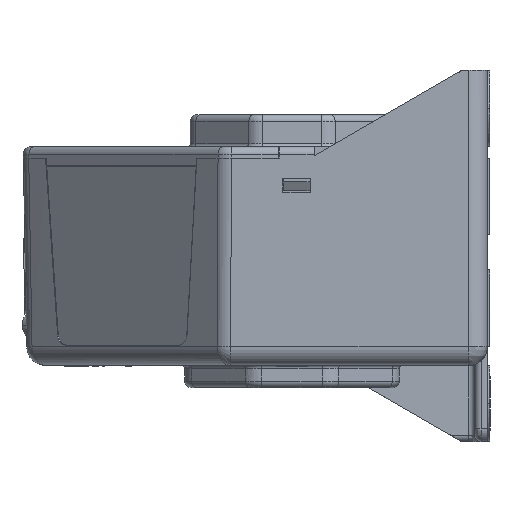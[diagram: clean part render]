
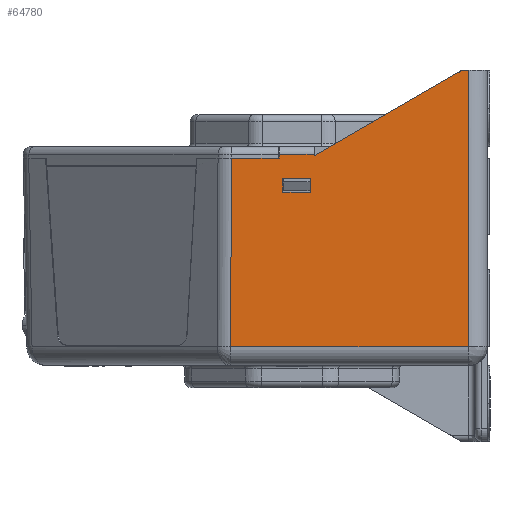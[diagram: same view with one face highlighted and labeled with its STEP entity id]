
A CAD part, left-side view. The second image highlights one B-rep face of the part: STEP entity #64780.
In plain terms, the highlighted planar face has unit normal (-1, 0, -0.018).
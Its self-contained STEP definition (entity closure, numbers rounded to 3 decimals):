
#23400=CARTESIAN_POINT('',(-43.01,-3.5,
0.579));
#23410=VERTEX_POINT('',#23400);
#23460=CARTESIAN_POINT('',(-43.01,-3.5,
0.579));
#23470=DIRECTION('',(0.,1.,0.));
#23480=VECTOR('',#23470,1.);
#23490=LINE('',#23460,#23480);
#23500=CARTESIAN_POINT('',(-43.01,2.,
0.579));
#23510=VERTEX_POINT('',#23500);
#23520=EDGE_CURVE('',#23410,#23510,#23490,.T.);
#63380=CARTESIAN_POINT('',(-43.,9.508,0.));
#63390=DIRECTION('',(0.017,0.005,
-1.));
#63400=VECTOR('',#63390,1.);
#63410=LINE('',#63380,#63400);
#63420=CARTESIAN_POINT('',(-43.,9.508,0.));
#63430=VERTEX_POINT('',#63420);
#63440=CARTESIAN_POINT('',(-42.482,9.659,
-29.652));
#63450=VERTEX_POINT('',#63440);
#63460=EDGE_CURVE('',#63430,#63450,#63410,.T.);
#63750=CARTESIAN_POINT('',(-42.463,10.595,
-30.739));
#63760=DIRECTION('',(-1.,0.,-0.017));
#63770=DIRECTION('',(-0.017,0.,1.));
#63780=AXIS2_PLACEMENT_3D('',#63750,#63760,#63770);
#63790=PLANE('',#63780);
#63800=CARTESIAN_POINT('',(-42.482,9.659,
-29.652));
#63810=DIRECTION('',(0.,-1.,0.));
#63820=VECTOR('',#63810,1.);
#63830=LINE('',#63800,#63820);
#63840=CARTESIAN_POINT('',(-42.482,-27.751,
-29.652));
#63850=VERTEX_POINT('',#63840);
#63860=EDGE_CURVE('',#63450,#63850,#63830,.T.);
#63870=ORIENTED_EDGE('',*,*,#63860,.T.);
#63880=ORIENTED_EDGE('',*,*,#63460,.T.);
#63890=CARTESIAN_POINT('',(-43.,9.508,0.));
#63900=DIRECTION('',(0.,-1.,0.));
#63910=VECTOR('',#63900,1.);
#63920=LINE('',#63890,#63910);
#63930=CARTESIAN_POINT('',(-43.,2.15,0.));
#63940=VERTEX_POINT('',#63930);
#63950=EDGE_CURVE('',#63430,#63940,#63920,.T.);
#63960=ORIENTED_EDGE('',*,*,#63950,.F.);
#63970=CARTESIAN_POINT('',(-43.,0.,0.));
#63980=DIRECTION('',(0.,1.,-0.));
#63990=VECTOR('',#63980,1.);
#64000=LINE('',#63970,#63990);
#64010=CARTESIAN_POINT('',(-43.,2.,0.));
#64020=VERTEX_POINT('',#64010);
#64030=EDGE_CURVE('',#64020,#63940,#64000,.T.);
#64040=ORIENTED_EDGE('',*,*,#64030,.T.);
#64050=CARTESIAN_POINT('',(-43.,2.,0.));
#64060=DIRECTION('',(0.017,0.,-1.));
#64070=VECTOR('',#64060,1.);
#64080=LINE('',#64050,#64070);
#64090=EDGE_CURVE('',#23510,#64020,#64080,.T.);
#64100=ORIENTED_EDGE('',*,*,#64090,.T.);
#64110=ORIENTED_EDGE('',*,*,#23520,.T.);
#64120=CARTESIAN_POINT('',(-43.,-3.5,0.));
#64130=DIRECTION('',(-0.017,0.,1.));
#64140=VECTOR('',#64130,1.);
#64150=LINE('',#64120,#64140);
#64160=CARTESIAN_POINT('',(-43.007,-3.5,
0.377));
#64170=VERTEX_POINT('',#64160);
#64180=EDGE_CURVE('',#64170,#23410,#64150,.T.);
#64190=ORIENTED_EDGE('',*,*,#64180,.T.);
#64200=CARTESIAN_POINT('',(-42.971,0.,-1.644));
#64210=DIRECTION('',(-0.009,-0.866,
0.5));
#64220=VECTOR('',#64210,1.);
#64230=LINE('',#64200,#64220);
#64240=CARTESIAN_POINT('',(-43.241,-26.75,13.8));
#64250=VERTEX_POINT('',#64240);
#64260=EDGE_CURVE('',#64170,#64250,#64230,.T.);
#64270=ORIENTED_EDGE('',*,*,#64260,.F.);
#64280=CARTESIAN_POINT('',(-43.241,0.,13.8));
#64290=DIRECTION('',(-0.,-1.,0.));
#64300=VECTOR('',#64290,1.);
#64310=LINE('',#64280,#64300);
#64320=CARTESIAN_POINT('',(-43.241,-27.751,13.8));
#64330=VERTEX_POINT('',#64320);
#64340=EDGE_CURVE('',#64250,#64330,#64310,.T.);
#64350=ORIENTED_EDGE('',*,*,#64340,.F.);
#64360=CARTESIAN_POINT('',(-43.241,-27.751,13.8));
#64370=DIRECTION('',(0.017,0.,-1.));
#64380=VECTOR('',#64370,1.);
#64390=LINE('',#64360,#64380);
#64400=EDGE_CURVE('',#64330,#63850,#64390,.T.);
#64410=ORIENTED_EDGE('',*,*,#64400,.F.);
#64420=EDGE_LOOP('',(#64410,#64350,#64270,#64190,#64110,#64100,#64040,
#63960,#63880,#63870));
#64430=FACE_OUTER_BOUND('',#64420,.T.);
#64440=CARTESIAN_POINT('',(-42.944,0.,-3.2));
#64450=DIRECTION('',(0.,-1.,-0.));
#64460=VECTOR('',#64450,1.);
#64470=LINE('',#64440,#64460);
#64480=CARTESIAN_POINT('',(-42.944,1.45,-3.2));
#64490=VERTEX_POINT('',#64480);
#64500=CARTESIAN_POINT('',(-42.944,-2.95,-3.2));
#64510=VERTEX_POINT('',#64500);
#64520=EDGE_CURVE('',#64490,#64510,#64470,.T.);
#64530=ORIENTED_EDGE('',*,*,#64520,.T.);
#64540=CARTESIAN_POINT('',(-43.,1.45,0.));
#64550=DIRECTION('',(-0.017,0.,1.));
#64560=VECTOR('',#64550,1.);
#64570=LINE('',#64540,#64560);
#64580=CARTESIAN_POINT('',(-42.906,1.45,-5.4));
#64590=VERTEX_POINT('',#64580);
#64600=EDGE_CURVE('',#64590,#64490,#64570,.T.);
#64610=ORIENTED_EDGE('',*,*,#64600,.T.);
#64620=CARTESIAN_POINT('',(-42.906,0.,-5.4));
#64630=DIRECTION('',(-0.,-1.,0.));
#64640=VECTOR('',#64630,1.);
#64650=LINE('',#64620,#64640);
#64660=CARTESIAN_POINT('',(-42.906,-2.95,-5.4));
#64670=VERTEX_POINT('',#64660);
#64680=EDGE_CURVE('',#64590,#64670,#64650,.T.);
#64690=ORIENTED_EDGE('',*,*,#64680,.F.);
#64700=CARTESIAN_POINT('',(-43.,-2.95,0.));
#64710=DIRECTION('',(0.017,0.,-1.));
#64720=VECTOR('',#64710,1.);
#64730=LINE('',#64700,#64720);
#64740=EDGE_CURVE('',#64510,#64670,#64730,.T.);
#64750=ORIENTED_EDGE('',*,*,#64740,.T.);
#64760=EDGE_LOOP('',(#64750,#64690,#64610,#64530));
#64770=FACE_BOUND('',#64760,.T.);
#64780=ADVANCED_FACE('',(#64430,#64770),#63790,.T.);
